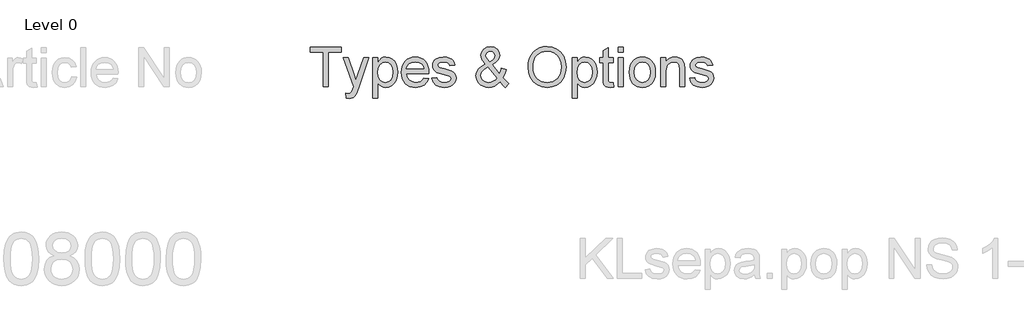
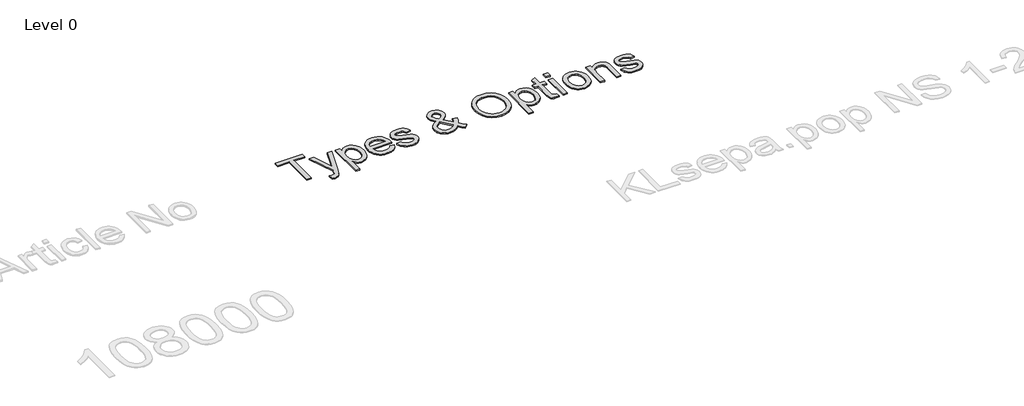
# One storey, part 13 of 15: 1 proxy.
"""IFC4 building model written with IfcOpenShell, lengths in millimetres."""

from ifc_helpers import new_model, si_unit, origin, origin_with_axes, place, context, project, spatial, polyline, outline, extrude, element, save

model = new_model("IFC4")

# Units and contexts
model_context = context("Model", 3, world=origin())
ifc_project = project(units=[si_unit("LENGTHUNIT", "METRE", prefix="MILLI")], contexts=[model_context])

# Site, building, storey
site = spatial("IfcSite", under=ifc_project)
building = spatial("IfcBuilding", under=site)
storey = spatial("IfcBuildingStorey", under=building, Name="Level 0", Elevation=0.0)

# Proxy
placement = place(None, origin())
element("IfcBuildingElementProxy", 1, Name="300mm Arial", ObjectType="300mm Arial", at=placement, inside=storey, context=model_context, shape_type="SweptSolid", body=[
    extrude(outline(polyline([(-1087.829451, 11653.8274553), (-1087.829451, 11917.5252695), (-1186.7161313, 11917.5252695), (-1186.7161313, 11955.1963858), (-951.2716544, 11955.1963858), (-951.2716544, 11917.5252695), (-1050.1583347, 11917.5252695), (-1050.1583347, 11653.8274553), (-1087.829451, 11653.8274553)])), origin_with_axes(), (0.0, 0.0, 1.0), 10.0),
    extrude(outline(polyline([(-913.6005381, 11569.0674436), (-918.3094276, 11605.3406084), (-899.1795639, 11602.0296704), (-881.3004989, 11606.186737), (-870.3376155, 11617.7750198), (-860.0369196, 11645.5133222), (-857.0938636, 11654.6367957), (-937.1449858, 11875.1452636), (-897.4137303, 11875.1452636), (-854.9601481, 11752.2726772), (-840.1712919, 11703.1236427), (-825.3824356, 11746.5337181), (-781.751631, 11875.1452636), (-742.3146811, 11875.1452636), (-819.3491709, 11648.5299546), (-839.3619515, 11599.38092), (-849.607465, 11583.690753), (-861.214142, 11572.81984), (-874.6970171, 11566.4738756), (-890.5711252, 11564.3585541), (-913.6005381, 11569.0674436)])), origin_with_axes(), (0.0, 0.0, 1.0), 10.0),
    extrude(outline(polyline([(-711.1182879, 11569.0674436), (-711.1182879, 11875.1452636), (-673.4471716, 11875.1452636), (-673.4471716, 11838.2099113), (-661.159913, 11856.4292671), (-647.4011264, 11869.4430927), (-631.3614714, 11877.2513881), (-612.2316076, 11879.8541532), (-586.7557795, 11876.2121214), (-564.4805247, 11865.2860262), (-546.3439423, 11847.738055), (-533.2841315, 11824.2303955), (-525.3930627, 11796.473699), (-522.7627064, 11766.1786167), (-525.7333535, 11733.9613509), (-534.6452949, 11705.1469937), (-549.2134219, 11681.1978758), (-569.152626, 11663.5763282), (-592.3751769, 11652.7330064), (-616.7933444, 11649.1185658), (-634.1113893, 11651.5373899), (-649.5716301, 11658.7938623), (-662.8061849, 11669.7475487), (-673.4471716, 11683.2580149), (-673.4471716, 11569.0674436), (-711.1182879, 11569.0674436)]), holes=[polyline([(-673.4471716, 11762.7205259), (-669.3728785, 11728.9489587), (-657.1499992, 11705.3309347), (-639.1145844, 11691.4249952), (-617.6026848, 11686.7896821), (-595.7412972, 11691.5905421), (-577.2460299, 11705.9931223), (-564.6368745, 11730.475669), (-560.4338227, 11765.5164291), (-564.535707, 11799.1040552), (-576.8413597, 11823.0531731), (-594.8491834, 11837.4005709), (-616.0575804, 11842.1830369), (-637.3487509, 11837.0970683), (-656.0463533, 11821.8391625), (-669.096967, 11796.8875662), (-673.4471716, 11762.7205259)])]), origin_with_axes(), (0.0, 0.0, 1.0), 10.0),
    extrude(outline(polyline([(-325.4308042, 11719.7519089), (-288.4954519, 11715.0430193), (-301.8035831, 11687.2127464), (-323.0395712, 11666.4090196), (-351.7251698, 11653.4411792), (-387.3821322, 11649.1185658), (-410.7564345, 11650.9832677), (-431.5831539, 11656.5773732), (-449.8622905, 11665.9008826), (-465.5938444, 11678.9537956), (-478.2443865, 11695.3728289), (-487.280488, 11714.794699), (-492.7021489, 11737.2194059), (-494.5093692, 11762.6469495), (-492.6837548, 11788.9367166), (-487.2069116, 11812.1086838), (-478.0788396, 11832.162851), (-465.2995388, 11849.0992184), (-449.6093717, 11862.5545023), (-431.7487008, 11872.1654195), (-411.7175262, 11877.9319697), (-389.5158478, 11879.8541532), (-368.02924, 11877.9365683), (-348.5981728, 11872.1838136), (-331.2226464, 11862.5958891), (-315.9026605, 11849.1727948), (-303.396972, 11832.2732156), (-294.4643373, 11812.2558366), (-289.1047564, 11789.1206576), (-287.3182295, 11762.8676787), (-287.5389587, 11752.7141356), (-456.8382529, 11752.7141356), (-450.3175445, 11724.5159807), (-435.1700034, 11703.7858303), (-413.3086158, 11691.0387191), (-386.6463682, 11686.7896821), (-366.5967995, 11688.7578508), (-349.7110159, 11694.6623568), (-335.9890175, 11704.8710822), (-325.4308042, 11719.7519089)]), holes=[polyline([(-456.8382529, 11790.3852519), (-324.9893458, 11790.3852519), (-330.0845114, 11810.2876679), (-340.0725076, 11824.5247011), (-362.0350627, 11837.7684529), (-389.6630006, 11842.1830369), (-415.0560553, 11838.6605668), (-436.0529201, 11828.0931565), (-450.6486383, 11811.6212401), (-456.8382529, 11790.3852519)])]), origin_with_axes(), (0.0, 0.0, 1.0), 10.0),
    extrude(outline(polyline([(-263.7737818, 11719.7519089), (-226.1026655, 11724.4607984), (-220.1613713, 11708.347567), (-208.6650589, 11696.5017668), (-191.5401521, 11689.2177033), (-168.7130743, 11686.7896821), (-146.1619079, 11689.0153682), (-130.306194, 11695.6924264), (-120.9252031, 11705.3677229), (-117.7982061, 11716.5881237), (-120.9435972, 11726.1898438), (-130.3797704, 11733.5106955), (-169.1545326, 11744.2528497), (-225.8819363, 11762.6837377), (-240.2385312, 11771.9451669), (-250.6403946, 11784.2048344), (-256.9587678, 11798.6809909), (-259.0648923, 11814.5918872), (-257.3726351, 11829.1876054), (-252.2958636, 11842.6612835), (-244.2944302, 11854.4794926), (-233.8281874, 11864.1088038), (-209.8790695, 11875.2556282), (-177.4686657, 11879.8541532), (-152.9493308, 11878.0055461), (-131.6305691, 11872.4597251), (-114.4872682, 11863.7593159), (-102.4943151, 11852.4469445), (-94.548064, 11837.6856795), (-89.5448689, 11818.6385892), (-127.2159852, 11813.9296996), (-131.97086, 11825.7846969), (-141.379442, 11834.7150324), (-155.5337018, 11840.3160357), (-174.5256098, 11842.1830369), (-196.1570711, 11840.3988092), (-210.5780453, 11835.0461262), (-218.6898433, 11827.3206043), (-221.393776, 11818.41786), (-216.9056156, 11807.4549765), (-202.8525234, 11799.1408434), (-170.4053314, 11791.1210159), (-115.1126676, 11773.3891038), (-100.5077523, 11764.9094238), (-89.4345043, 11753.3027468), (-82.4539434, 11738.5322847), (-80.1270898, 11720.5612493), (-82.8586136, 11701.9832085), (-91.0531851, 11684.5088137), (-104.3981044, 11669.5084254), (-122.5806721, 11658.3524039), (-144.5432272, 11651.4270253), (-169.228109, 11649.1185658), (-207.211925, 11653.5699379), (-234.9318334, 11666.9240544), (-253.4362977, 11689.0337623), (-263.7737818, 11719.7519089)])), origin_with_axes(), (0.0, 0.0, 1.0), 10.0),
    extrude(outline(polyline([(252.8061158, 11691.0571132), (233.657858, 11672.7089987), (212.8541311, 11659.6032027), (190.3581471, 11651.739725), (166.1331178, 11649.1185658), (144.1521685, 11651.0591433), (124.5624523, 11656.8808759), (107.363969, 11666.5837635), (92.5567187, 11680.1678062), (76.0572112, 11706.9680095), (70.5573754, 11736.748057), (74.9811564, 11763.1435902), (88.2524994, 11786.8535848), (110.316222, 11807.8596467), (141.1171421, 11826.1433819), (114.8135794, 11864.2559566), (108.2284917, 11892.5092938), (113.4156278, 11917.9483338), (128.9770362, 11939.8189184), (152.3927252, 11954.8836861), (181.1427032, 11959.9052753), (208.4947295, 11955.1044153), (230.3653141, 11940.7018352), (244.7127119, 11919.5670146), (249.4951779, 11894.569433), (245.9543137, 11873.5817652), (235.331721, 11854.1759899), (217.6274, 11836.3521072), (192.8413506, 11820.1101172), (247.3614623, 11752.1991008), (256.6504827, 11771.6048761), (263.6218465, 11793.9169191), (301.2929628, 11785.7499388), (289.7046799, 11750.8563316), (274.6583063, 11723.7250344), (296.0690385, 11698.7458469), (320.1285209, 11678.107667), (291.8751837, 11649.1185658), (272.6533495, 11666.7033252), (252.8061158, 11691.0571132)]), holes=[polyline([(227.569411, 11718.2068045), (160.3205822, 11802.1574758), (134.6332219, 11785.7683329), (118.9338578, 11770.5932006), (110.9048332, 11756.09865), (108.2284917, 11741.7512522), (111.8889176, 11723.9825518), (122.8701951, 11705.5516639), (140.5653191, 11691.4801775), (164.3672842, 11686.7896821), (181.4094176, 11688.97858), (198.9849799, 11695.5452736), (215.0522261, 11705.5884521), (227.569411, 11718.2068045)]), polyline([(173.7850633, 11843.875294), (193.4851441, 11856.3740848), (204.7607272, 11867.2358007), (210.058228, 11877.803211), (211.8240616, 11889.419085), (209.4972079, 11902.5800634), (202.5166471, 11913.0738973), (192.0412073, 11919.9440936), (179.2297168, 11922.234159), (166.1423148, 11919.9624877), (155.4277517, 11913.1474737), (148.2816439, 11903.05831), (145.899608, 11890.9641894), (149.1369696, 11877.1686146), (158.9226307, 11861.8279354), (173.7850633, 11843.875294)])]), origin_with_axes(), (0.0, 0.0, 1.0), 10.0),
    extrude(outline(polyline([(466.1040966, 11800.538795), (468.6148912, 11835.8876562), (476.1472751, 11867.1806184), (488.7012482, 11894.4176817), (506.2768105, 11917.5988459), (527.8208998, 11936.1079088), (552.280454, 11949.328668), (579.655473, 11957.2611235), (609.9459567, 11959.9052753), (649.4748771, 11954.9388684), (684.9203074, 11940.0396476), (714.350867, 11916.2560766), (735.8351755, 11884.6366191), (748.9685627, 11846.7079854), (753.3463585, 11803.9968858), (748.7386365, 11760.715569), (734.9154705, 11722.2535064), (712.6402157, 11690.5788667), (682.6762272, 11667.6598184), (647.5342996, 11653.7538789), (609.7252275, 11649.1185658), (569.5893019, 11654.2413226), (533.9415365, 11669.6095929), (504.5845533, 11693.8346223), (483.320974, 11725.5276562), (470.408316, 11761.993959), (466.1040966, 11800.538795)]), holes=[polyline([(503.7752129, 11800.170913), (505.6583089, 11775.1963241), (511.3075968, 11753.0268353), (520.7230766, 11733.6624468), (533.9047483, 11717.1031585), (549.9283085, 11703.8410126), (567.8694535, 11694.3680512), (587.7281835, 11688.6842744), (609.5044983, 11686.7896821), (631.6532937, 11688.7026685), (651.7465484, 11694.4416276), (669.7842625, 11704.0065595), (685.7664359, 11717.3974641), (698.8515387, 11734.3062403), (708.1980406, 11754.4247869), (713.8059418, 11777.7531039), (715.6752422, 11804.2911914), (712.4746688, 11837.6396942), (702.8729487, 11866.4632485), (687.1184023, 11890.0352874), (665.4593498, 11907.6292438), (639.3305311, 11918.5829302), (610.1666859, 11922.234159), (589.1468284, 11920.4752232), (569.6444842, 11915.1984159), (551.6596531, 11906.4037369), (535.1923353, 11894.0911864), (521.4473443, 11877.6675546), (511.6294935, 11856.5396317), (505.7387831, 11830.7074179), (503.7752129, 11800.170913)])]), origin_with_axes(), (0.0, 0.0, 1.0), 10.0),
    extrude(outline(polyline([(800.4352538, 11569.0674436), (800.4352538, 11875.1452636), (838.1063701, 11875.1452636), (838.1063701, 11838.2099113), (850.3936288, 11856.4292671), (864.1524154, 11869.4430927), (880.1920704, 11877.2513881), (899.3219341, 11879.8541532), (924.7977623, 11876.2121214), (947.0730171, 11865.2860262), (965.2095995, 11847.738055), (978.2694103, 11824.2303955), (986.1604791, 11796.473699), (988.7908354, 11766.1786167), (985.8201883, 11733.9613509), (976.9082469, 11705.1469937), (962.3401199, 11681.1978758), (942.4009158, 11663.5763282), (919.1783648, 11652.7330064), (894.7601974, 11649.1185658), (877.4421525, 11651.5373899), (861.9819116, 11658.7938623), (848.7473569, 11669.7475487), (838.1063701, 11683.2580149), (838.1063701, 11569.0674436), (800.4352538, 11569.0674436)]), holes=[polyline([(838.1063701, 11762.7205259), (842.1806632, 11728.9489587), (854.4035425, 11705.3309347), (872.4389573, 11691.4249952), (893.950857, 11686.7896821), (915.8122446, 11691.5905421), (934.3075119, 11705.9931223), (946.9166673, 11730.475669), (951.1197191, 11765.5164291), (947.0178348, 11799.1040552), (934.7121821, 11823.0531731), (916.7043584, 11837.4005709), (895.4959614, 11842.1830369), (874.2047909, 11837.0970683), (855.5071885, 11821.8391625), (842.4565747, 11796.8875662), (838.1063701, 11762.7205259)])]), origin_with_axes(), (0.0, 0.0, 1.0), 10.0),
    extrude(outline(polyline([(1111.2219634, 11685.2445777), (1115.9308529, 11652.7238093), (1087.7510921, 11649.1185658), (1069.669692, 11650.6820643), (1056.1868169, 11655.3725597), (1046.6586732, 11662.6014409), (1040.4414675, 11671.7800967), (1037.0201649, 11687.5438402), (1035.8797308, 11714.5279845), (1035.8797308, 11837.4741473), (1007.6263935, 11837.4741473), (1007.6263935, 11875.1452636), (1035.8797308, 11875.1452636), (1035.8797308, 11928.9296113), (1073.5508471, 11951.0761074), (1073.5508471, 11875.1452636), (1111.2219634, 11875.1452636), (1111.2219634, 11837.4741473), (1073.5508471, 11837.4741473), (1073.5508471, 11715.6316305), (1075.5374098, 11696.2074612), (1081.9753447, 11689.3280679), (1094.8144264, 11686.7896821), (1111.2219634, 11685.2445777)])), origin_with_axes(), (0.0, 0.0, 1.0), 10.0),
    extrude(outline(polyline([(1148.8930797, 11917.5252695), (1148.8930797, 11955.1963858), (1186.564196, 11955.1963858), (1186.564196, 11917.5252695), (1148.8930797, 11917.5252695)])), origin_with_axes(), (0.0, 0.0, 1.0), 10.0),
    extrude(outline(polyline([(1148.8930797, 11653.8274553), (1148.8930797, 11875.1452636), (1186.564196, 11875.1452636), (1186.564196, 11653.8274553), (1148.8930797, 11653.8274553)])), origin_with_axes(), (0.0, 0.0, 1.0), 10.0),
    extrude(outline(polyline([(1233.6530914, 11764.4863595), (1235.6902379, 11793.1489654), (1241.8016776, 11817.8476429), (1251.9874103, 11838.5823918), (1266.2474361, 11855.3532123), (1280.604031, 11866.0723739), (1296.4505479, 11873.728918), (1313.786987, 11878.3228444), (1332.6133481, 11879.8541532), (1353.3963815, 11877.9894513), (1372.1882537, 11872.3953457), (1388.9889646, 11863.0718364), (1403.7985141, 11850.0189234), (1415.8857369, 11833.678065), (1424.5194675, 11814.4907197), (1429.6997059, 11792.4568874), (1431.426452, 11767.5765682), (1428.3730314, 11729.5191758), (1419.2127697, 11700.5484687), (1404.2123814, 11678.8526281), (1383.6385808, 11662.619835), (1359.2020193, 11652.4938831), (1332.6133481, 11649.1185658), (1311.526812, 11650.9763699), (1292.5601958, 11656.5497821), (1275.7134997, 11665.8388025), (1260.9867236, 11678.843431), (1249.0282595, 11695.3429385), (1240.4864994, 11715.1165957), (1235.3614434, 11738.1644027), (1233.6530914, 11764.4863595)]), holes=[polyline([(1271.3242077, 11764.5599359), (1275.6836093, 11730.466472), (1288.7618142, 11706.1770632), (1308.443501, 11691.6365274), (1332.6133481, 11686.7896821), (1356.6728305, 11691.6641185), (1376.3177291, 11706.2874278), (1389.395934, 11730.8987333), (1393.7553357, 11765.7371583), (1389.3683429, 11798.8373408), (1376.2073645, 11822.7956557), (1356.5348748, 11837.3361916), (1332.6133481, 11842.1830369), (1308.443501, 11837.3545857), (1288.7618142, 11822.8692321), (1275.6836093, 11798.6350057), (1271.3242077, 11764.5599359)])]), origin_with_axes(), (0.0, 0.0, 1.0), 10.0),
    extrude(outline(polyline([(1473.8064578, 11653.8274553), (1473.8064578, 11875.1452636), (1511.4775741, 11875.1452636), (1511.4775741, 11844.243176), (1524.5649761, 11859.8229785), (1540.2827343, 11870.9514089), (1558.6308488, 11877.6284671), (1579.6093196, 11879.8541532), (1598.1781633, 11878.0607284), (1615.1835086, 11872.6804543), (1629.3653595, 11864.3847153), (1639.4637202, 11853.8448961), (1650.7576975, 11826.1433819), (1652.7442603, 11789.7230644), (1652.7442603, 11653.8274553), (1615.073144, 11653.8274553), (1615.073144, 11784.6462928), (1610.7321364, 11817.9764016), (1604.7264628, 11827.9000184), (1595.3914572, 11835.5979492), (1583.4260953, 11840.5367649), (1569.529353, 11842.1830369), (1547.4656303, 11838.4858228), (1528.6576633, 11827.3941807), (1521.1413743, 11818.3396851), (1515.7725964, 11805.9650544), (1511.4775741, 11771.2553882), (1511.4775741, 11653.8274553), (1473.8064578, 11653.8274553)])), origin_with_axes(), (0.0, 0.0, 1.0), 10.0),
    extrude(outline(polyline([(1690.4153766, 11719.7519089), (1728.0864929, 11724.4607984), (1734.0277871, 11708.347567), (1745.5240994, 11696.5017668), (1762.6490063, 11689.2177033), (1785.4760841, 11686.7896821), (1808.0272504, 11689.0153682), (1823.8829644, 11695.6924264), (1833.2639553, 11705.3677229), (1836.3909523, 11716.5881237), (1833.2455612, 11726.1898438), (1823.809388, 11733.5106955), (1785.0346257, 11744.2528497), (1728.3072221, 11762.6837377), (1713.9506272, 11771.9451669), (1703.5487638, 11784.2048344), (1697.2303905, 11798.6809909), (1695.1242661, 11814.5918872), (1696.8165233, 11829.1876054), (1701.8932948, 11842.6612835), (1709.8947282, 11854.4794926), (1720.360971, 11864.1088038), (1744.3100889, 11875.2556282), (1776.7204926, 11879.8541532), (1801.2398276, 11878.0055461), (1822.5585892, 11872.4597251), (1839.7018902, 11863.7593159), (1851.6948433, 11852.4469445), (1859.6410944, 11837.6856795), (1864.6442895, 11818.6385892), (1826.9731732, 11813.9296996), (1822.2182984, 11825.7846969), (1812.8097164, 11834.7150324), (1798.6554566, 11840.3160357), (1779.6635486, 11842.1830369), (1758.0320873, 11840.3988092), (1743.6111131, 11835.0461262), (1735.4993151, 11827.3206043), (1732.7953824, 11818.41786), (1737.2835428, 11807.4549765), (1751.336635, 11799.1408434), (1783.7838269, 11791.1210159), (1839.0764908, 11773.3891038), (1853.681406, 11764.9094238), (1864.7546541, 11753.3027468), (1871.7352149, 11738.5322847), (1874.0620686, 11720.5612493), (1871.3305447, 11701.9832085), (1863.1359733, 11684.5088137), (1849.7910539, 11669.5084254), (1831.6084863, 11658.3524039), (1809.6459312, 11651.4270253), (1784.9610493, 11649.1185658), (1746.9772333, 11653.5699379), (1719.257325, 11666.9240544), (1700.7528606, 11689.0337623), (1690.4153766, 11719.7519089)])), origin_with_axes(), (0.0, 0.0, 1.0), 10.0),
])

save(model, "model.ifc")
